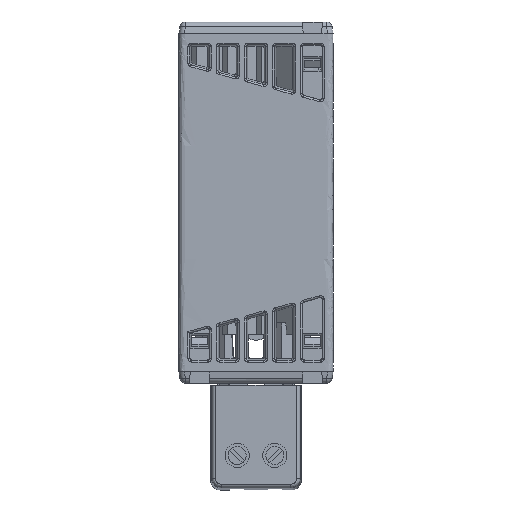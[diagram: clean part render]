
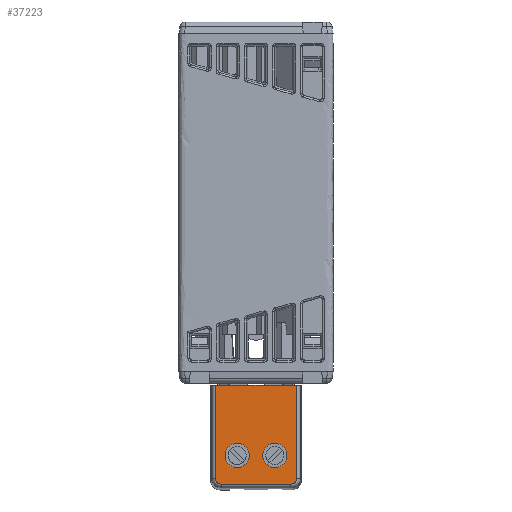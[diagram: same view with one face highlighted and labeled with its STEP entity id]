
A CAD part, front view. The second image highlights one B-rep face of the part: STEP entity #37223.
In plain terms, the highlighted planar face has unit normal (0, -1, 0).
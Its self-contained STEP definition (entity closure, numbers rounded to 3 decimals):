
#1567=CIRCLE('',#39396,3.225);
#1568=CIRCLE('',#39397,3.225);
#2356=(
BOUNDED_CURVE()
B_SPLINE_CURVE(3,(#62670,#62671,#62672,#62673,#62674,#62675,#62676,#62677),
 .UNSPECIFIED.,.F.,.F.)
B_SPLINE_CURVE_WITH_KNOTS((4,1,1,1,1,4),(0.,0.57,1.14,
1.438,1.736,2.356),.UNSPECIFIED.)
CURVE()
GEOMETRIC_REPRESENTATION_ITEM()
RATIONAL_B_SPLINE_CURVE((1.,1.,1.,1.,1.,1.,1.,1.))
REPRESENTATION_ITEM('')
);
#2357=(
BOUNDED_CURVE()
B_SPLINE_CURVE(3,(#62707,#62708,#62709,#62710,#62711,#62712,#62713,#62714),
 .UNSPECIFIED.,.F.,.F.)
B_SPLINE_CURVE_WITH_KNOTS((4,1,1,1,1,4),(0.,0.57,1.14,
1.438,1.736,2.356),.UNSPECIFIED.)
CURVE()
GEOMETRIC_REPRESENTATION_ITEM()
RATIONAL_B_SPLINE_CURVE((1.,1.,1.,1.,1.,1.,1.,1.))
REPRESENTATION_ITEM('')
);
#8971=ORIENTED_EDGE('',*,*,#14275,.F.);
#8972=ORIENTED_EDGE('',*,*,#14276,.F.);
#8973=ORIENTED_EDGE('',*,*,#14261,.F.);
#8974=ORIENTED_EDGE('',*,*,#14272,.T.);
#8975=ORIENTED_EDGE('',*,*,#14277,.T.);
#8976=ORIENTED_EDGE('',*,*,#14266,.T.);
#8977=ORIENTED_EDGE('',*,*,#14258,.T.);
#8978=ORIENTED_EDGE('',*,*,#14264,.F.);
#14258=EDGE_CURVE('',#17281,#17280,#2356,.T.);
#14261=EDGE_CURVE('',#17282,#17284,#2357,.T.);
#14264=EDGE_CURVE('',#17284,#17280,#19904,.T.);
#14266=EDGE_CURVE('',#17286,#17281,#19906,.T.);
#14272=EDGE_CURVE('',#17282,#17289,#19909,.T.);
#14275=EDGE_CURVE('',#17291,#17291,#1567,.T.);
#14276=EDGE_CURVE('',#17292,#17292,#1568,.T.);
#14277=EDGE_CURVE('',#17289,#17286,#19911,.T.);
#17280=VERTEX_POINT('',#62669);
#17281=VERTEX_POINT('',#62678);
#17282=VERTEX_POINT('',#62705);
#17284=VERTEX_POINT('',#62715);
#17286=VERTEX_POINT('',#62732);
#17289=VERTEX_POINT('',#62750);
#17291=VERTEX_POINT('',#62766);
#17292=VERTEX_POINT('',#62768);
#19904=LINE('',#62727,#22665);
#19906=LINE('',#62731,#22667);
#19909=LINE('',#62751,#22670);
#19911=LINE('',#62769,#22672);
#22665=VECTOR('',#45465,1000.);
#22667=VECTOR('',#45469,1000.);
#22670=VECTOR('',#45480,1000.);
#22672=VECTOR('',#45490,1000.);
#24792=EDGE_LOOP('',(#8971));
#24793=EDGE_LOOP('',(#8972));
#24794=EDGE_LOOP('',(#8973,#8974,#8975,#8976,#8977,#8978));
#26571=FACE_BOUND('',#24792,.T.);
#26572=FACE_BOUND('',#24793,.T.);
#26573=FACE_BOUND('',#24794,.T.);
#27535=PLANE('',#39395);
#37223=ADVANCED_FACE('',(#26571,#26572,#26573),#27535,.T.);
#39395=AXIS2_PLACEMENT_3D('',#62764,#45484,#45485);
#39396=AXIS2_PLACEMENT_3D('',#62765,#45486,#45487);
#39397=AXIS2_PLACEMENT_3D('',#62767,#45488,#45489);
#45465=DIRECTION('',(-1.,0.,0.));
#45469=DIRECTION('',(0.,0.,-1.));
#45480=DIRECTION('',(0.,0.,1.));
#45484=DIRECTION('',(0.,-1.,0.));
#45485=DIRECTION('',(1.,0.,0.));
#45486=DIRECTION('',(0.,-1.,0.));
#45487=DIRECTION('',(1.,0.,0.));
#45488=DIRECTION('',(0.,-1.,0.));
#45489=DIRECTION('',(-1.,0.,0.));
#45490=DIRECTION('',(-1.,0.,0.));
#62669=CARTESIAN_POINT('',(151.994,2.368,110.966));
#62670=CARTESIAN_POINT('',(150.495,2.368,112.466));
#62671=CARTESIAN_POINT('',(150.495,2.368,112.276));
#62672=CARTESIAN_POINT('',(150.568,2.368,111.896));
#62673=CARTESIAN_POINT('',(150.831,2.368,111.485));
#62674=CARTESIAN_POINT('',(151.127,2.368,111.23));
#62675=CARTESIAN_POINT('',(151.482,2.368,111.03));
#62676=CARTESIAN_POINT('',(151.788,2.368,110.966));
#62677=CARTESIAN_POINT('',(151.994,2.368,110.966));
#62678=CARTESIAN_POINT('',(150.495,2.368,112.466));
#62705=CARTESIAN_POINT('',(172.024,2.368,112.466));
#62707=CARTESIAN_POINT('',(172.024,2.368,112.466));
#62708=CARTESIAN_POINT('',(172.024,2.368,112.276));
#62709=CARTESIAN_POINT('',(171.951,2.368,111.896));
#62710=CARTESIAN_POINT('',(171.687,2.368,111.485));
#62711=CARTESIAN_POINT('',(171.391,2.368,111.23));
#62712=CARTESIAN_POINT('',(171.037,2.368,111.03));
#62713=CARTESIAN_POINT('',(170.731,2.368,110.966));
#62714=CARTESIAN_POINT('',(170.524,2.368,110.966));
#62715=CARTESIAN_POINT('',(170.524,2.368,110.966));
#62727=CARTESIAN_POINT('',(161.259,2.368,110.966));
#62731=CARTESIAN_POINT('',(150.495,2.368,124.833));
#62732=CARTESIAN_POINT('',(150.495,2.368,137.2));
#62750=CARTESIAN_POINT('',(172.024,2.368,137.2));
#62751=CARTESIAN_POINT('',(172.024,2.368,124.833));
#62764=CARTESIAN_POINT('',(150.28,2.368,110.703));
#62765=CARTESIAN_POINT('',(166.259,2.368,118.575));
#62766=CARTESIAN_POINT('',(169.484,2.368,118.575));
#62767=CARTESIAN_POINT('',(156.259,2.368,118.575));
#62768=CARTESIAN_POINT('',(153.034,2.368,118.575));
#62769=CARTESIAN_POINT('',(161.259,2.368,137.2));
